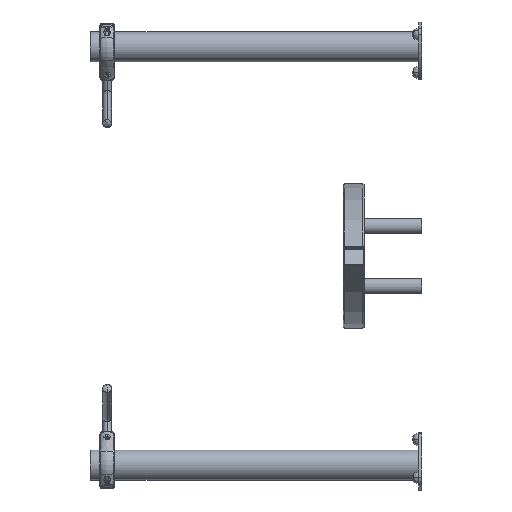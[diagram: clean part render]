
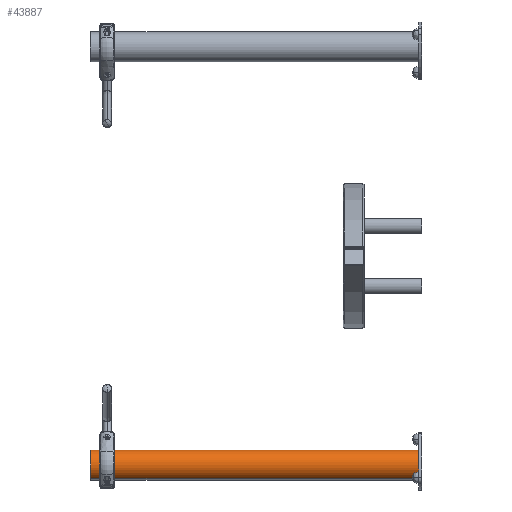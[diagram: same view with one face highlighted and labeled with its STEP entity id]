
A CAD part, left-side view. The second image highlights one B-rep face of the part: STEP entity #43887.
In plain terms, the highlighted cylindrical face has radius 57.15 mm (diameter 114.3 mm), a partial arc.
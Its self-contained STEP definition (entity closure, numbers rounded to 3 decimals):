
#338 = AXIS2_PLACEMENT_3D ( 'NONE', #27144, #46090, #31148 ) ;
#4156 = AXIS2_PLACEMENT_3D ( 'NONE', #20638, #35854, #24864 ) ;
#5036 = DIRECTION ( 'NONE',  ( 0., -1., 0. ) ) ;
#5407 = FACE_OUTER_BOUND ( 'NONE', #18925, .T. ) ;
#7503 = CIRCLE ( 'NONE', #338, 57.15 ) ;
#8995 = CARTESIAN_POINT ( 'NONE',  ( -28.575, 1262., -49.493 ) ) ;
#10124 = CARTESIAN_POINT ( 'NONE',  ( 28.575, 12., 49.493 ) ) ;
#11364 = CARTESIAN_POINT ( 'NONE',  ( 28.575, 1262., 49.493 ) ) ;
#11385 = VERTEX_POINT ( 'NONE', #11364 ) ;
#12499 = AXIS2_PLACEMENT_3D ( 'NONE', #23511, #5036, #46706 ) ;
#13456 = EDGE_CURVE ( 'NONE', #11385, #34356, #7503, .T. ) ;
#13481 = CARTESIAN_POINT ( 'NONE',  ( -28.575, 12., -49.493 ) ) ;
#14917 = VECTOR ( 'NONE', #22690, 1000. ) ;
#16618 = ORIENTED_EDGE ( 'NONE', *, *, #29047, .T. ) ;
#17873 = ORIENTED_EDGE ( 'NONE', *, *, #40144, .F. ) ;
#18925 = EDGE_LOOP ( 'NONE', ( #27974, #16618, #35745, #17873 ) ) ;
#20638 = CARTESIAN_POINT ( 'NONE',  ( 0., 12., 0. ) ) ;
#20869 = CYLINDRICAL_SURFACE ( 'NONE', #4156, 57.15 ) ;
#22690 = DIRECTION ( 'NONE',  ( 0., 1., 0. ) ) ;
#23511 = CARTESIAN_POINT ( 'NONE',  ( 0., 12., 0. ) ) ;
#24864 = DIRECTION ( 'NONE',  ( -0.5, 0., -0.866 ) ) ;
#26232 = VERTEX_POINT ( 'NONE', #36633 ) ;
#26447 = LINE ( 'NONE', #44634, #14917 ) ;
#26610 = VERTEX_POINT ( 'NONE', #10124 ) ;
#27144 = CARTESIAN_POINT ( 'NONE',  ( 0., 1262., 0. ) ) ;
#27974 = ORIENTED_EDGE ( 'NONE', *, *, #33911, .F. ) ;
#29047 = EDGE_CURVE ( 'NONE', #26610, #11385, #26447, .T. ) ;
#31148 = DIRECTION ( 'NONE',  ( 0.5, 0., 0.866 ) ) ;
#33911 = EDGE_CURVE ( 'NONE', #26610, #26232, #34009, .T. ) ;
#34009 = CIRCLE ( 'NONE', #12499, 57.15 ) ;
#34356 = VERTEX_POINT ( 'NONE', #8995 ) ;
#35745 = ORIENTED_EDGE ( 'NONE', *, *, #13456, .T. ) ;
#35854 = DIRECTION ( 'NONE',  ( 0., 1., 0. ) ) ;
#36633 = CARTESIAN_POINT ( 'NONE',  ( -28.575, 12., -49.493 ) ) ;
#39367 = VECTOR ( 'NONE', #44638, 1000. ) ;
#40144 = EDGE_CURVE ( 'NONE', #26232, #34356, #47426, .T. ) ;
#43887 = ADVANCED_FACE ( 'NONE', ( #5407 ), #20869, .T. ) ;
#44634 = CARTESIAN_POINT ( 'NONE',  ( 28.575, 12., 49.493 ) ) ;
#44638 = DIRECTION ( 'NONE',  ( 0., 1., 0. ) ) ;
#46090 = DIRECTION ( 'NONE',  ( 0., -1., 0. ) ) ;
#46706 = DIRECTION ( 'NONE',  ( 0.5, 0., 0.866 ) ) ;
#47426 = LINE ( 'NONE', #13481, #39367 ) ;
